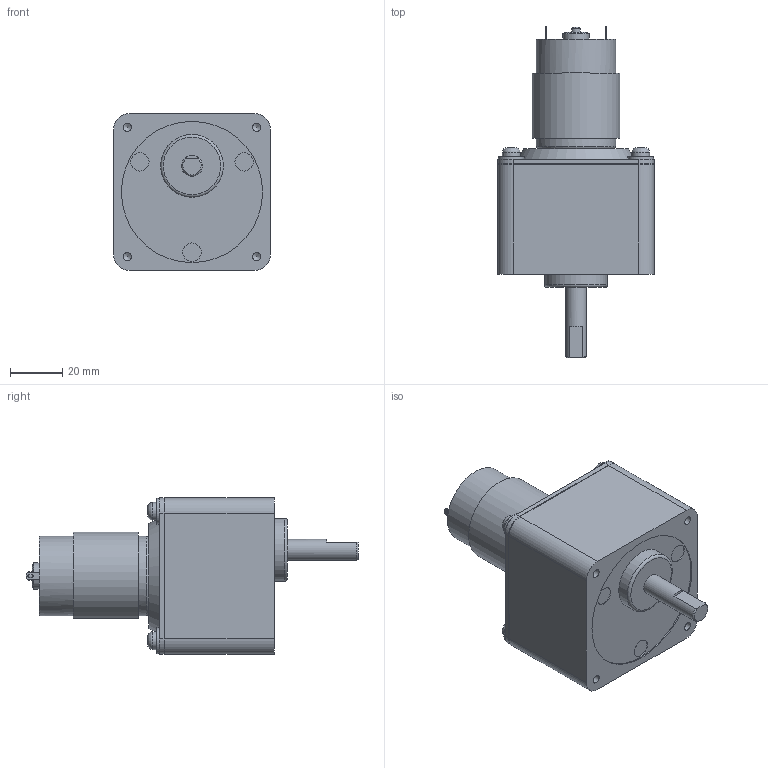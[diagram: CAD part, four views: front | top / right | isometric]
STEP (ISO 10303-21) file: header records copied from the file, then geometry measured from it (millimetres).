
FILE_DESCRIPTION(/* description */ (''),/* implementation_level */ '2;1');
FILE_NAME(/* name */ 'TP-3442#-CM-4.stp',/* time_stamp */ '2023-10-26T13:18:55+09:00',/* author */ ('user'),/* organization */ (''),/* preprocessor_version */ 'ST-DEVELOPER v19.2',/* originating_system */ 'Autodesk Inventor 2024',/* authorisation */ '');
FILE_SCHEMA (('AUTOMOTIVE_DESIGN { 1 0 10303 214 3 1 1 }'));
Length unit declared in the file: millimetre
Products named in the file (3): TP-3442#-CM-50~180-J00-24; cm_4; TP-3442#(RS-435PV)
Assembly tree (2 placements, depth 2):
  TP-3442#-CM-50~180-J00-24
    cm_4
    TP-3442#(RS-435PV)
Bounding box: 60 x 127 x 60 mm (x, y, z)
Volume: 199937.7 mm3; surface area: 26051.6 mm2
Topology: 2 solids, 2 shells, 182 faces, 407 edges, 266 vertices
Faces by surface type: plane 89, cylinder 69, cone 10, torus 10, bspline 4
Full cylindrical faces by diameter (mm): 1.5 x1, 2 x2, 2.459 x2, 2.5 x1, 2.6 x4, 3.17 x2, 3.242 x4, 6.8 x4, 7 x3, 8 x2, 8.3 x1, 9.8 x4, 9.9 x1, 10 x1, 24 x1, 29.4 x1, 30.4 x1, 54 x1
Entity records: 5362 total; most frequent: CARTESIAN_POINT 962, DIRECTION 952, ORIENTED_EDGE 802, EDGE_CURVE 401, AXIS2_PLACEMENT_3D 370, VERTEX_POINT 266, EDGE_LOOP 229, LINE 212
